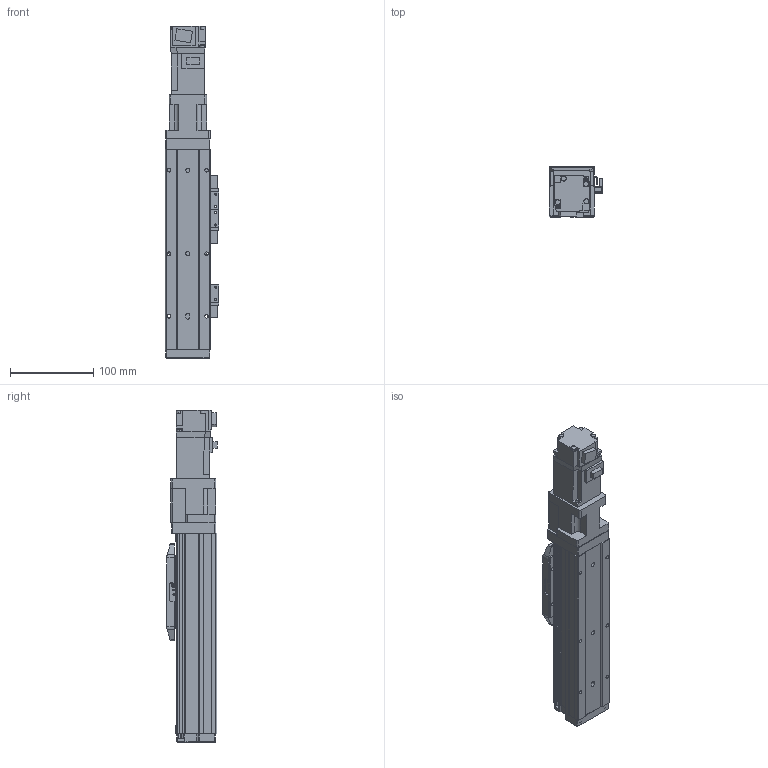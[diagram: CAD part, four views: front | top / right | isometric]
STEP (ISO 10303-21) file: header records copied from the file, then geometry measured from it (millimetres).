
FILE_DESCRIPTION (( 'STEP AP214' ), '1' );
FILE_NAME ('N_GRH5-100-BC-M10.step', '2025-03-14T09:33:40', ( '' ), ( '' ), 'SwSTEP 2.0', 'SolidWorks 2016', '' );
FILE_SCHEMA (( 'AUTOMOTIVE_DESIGN' ));
Length unit declared in the file: millimetre
Products named in the file (5): N_GRH5-GY-011^N_GRH5-100-BC-M10; HF-KP13_100W_Motor^N_GRH5-100-BC-M10; N_GRH5-GY-004^N_GRH5-100-BC-M10; N_GRH5-BC-008^N_GRH5-100-BC-M10; N_GRH5-100-BC-M10
Assembly tree (4 placements, depth 2):
  N_GRH5-100-BC-M10
    N_GRH5-GY-011^N_GRH5-100-BC-M10
    N_GRH5-GY-004^N_GRH5-100-BC-M10
    N_GRH5-BC-008^N_GRH5-100-BC-M10
    HF-KP13_100W_Motor^N_GRH5-100-BC-M10
Bounding box: 64.05 x 60.7 x 397.9 mm (x, y, z)
Volume: 767452.2 mm3; surface area: 195188.2 mm2
Topology: 4 solids, 5 shells, 894 faces, 2318 edges, 1471 vertices
Faces by surface type: plane 546, cylinder 288, cone 58, sphere 2
Entity records: 33486 total; most frequent: CARTESIAN_POINT 4726, DIRECTION 4685, ORIENTED_EDGE 4564, EDGE_CURVE 2282, VECTOR 1645, LINE 1645, AXIS2_PLACEMENT_3D 1520, VERTEX_POINT 1469
